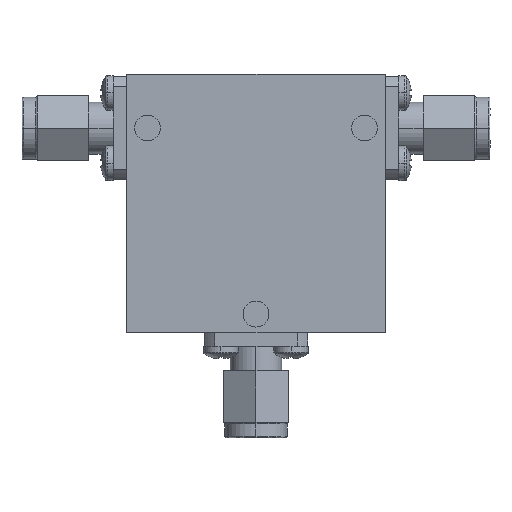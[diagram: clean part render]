
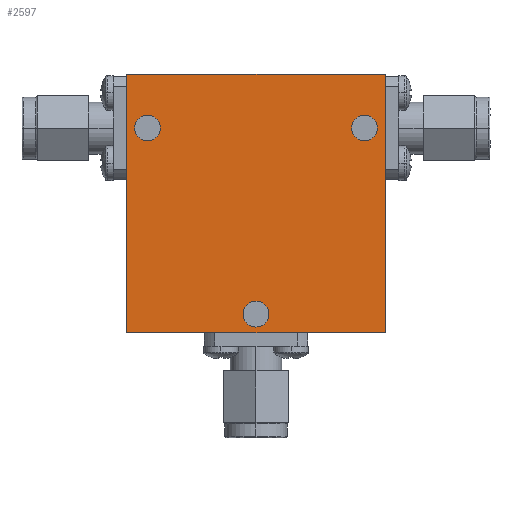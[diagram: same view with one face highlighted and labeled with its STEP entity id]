
A CAD part, top view. The second image highlights one B-rep face of the part: STEP entity #2597.
In plain terms, the highlighted planar face has unit normal (0, 0, 1) as drawn and (0, 0, -1) by its records, which use the part's own axes.
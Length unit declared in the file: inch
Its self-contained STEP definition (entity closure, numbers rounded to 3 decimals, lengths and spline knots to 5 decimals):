
#23 = DIRECTION ( 'NONE',  ( 1., 0., 0. ) ) ;
#35 = CARTESIAN_POINT ( 'NONE',  ( 0.625, 0.09, -0.25 ) ) ;
#51 = EDGE_CURVE ( 'NONE', #1299, #2743, #2066, .T. ) ;
#52 = CARTESIAN_POINT ( 'NONE',  ( 1.2125, 0.99, -0.25 ) ) ;
#70 = FACE_BOUND ( 'NONE', #912, .T. ) ;
#81 = VERTEX_POINT ( 'NONE', #3194 ) ;
#86 = VERTEX_POINT ( 'NONE', #1663 ) ;
#87 = CARTESIAN_POINT ( 'NONE',  ( 1.25, 1.25, -0.25 ) ) ;
#116 = CIRCLE ( 'NONE', #598, 0.0625 ) ;
#120 = CARTESIAN_POINT ( 'NONE',  ( 1.15, 0.99, -0.25 ) ) ;
#135 = VERTEX_POINT ( 'NONE', #1699 ) ;
#137 = CIRCLE ( 'NONE', #1637, 0.0625 ) ;
#186 = AXIS2_PLACEMENT_3D ( 'NONE', #1344, #3169, #1867 ) ;
#190 = CARTESIAN_POINT ( 'NONE',  ( 0., 1.25, -0.25 ) ) ;
#281 = CARTESIAN_POINT ( 'NONE',  ( 0.6875, 0.09, -0.25 ) ) ;
#327 = LINE ( 'NONE', #3146, #879 ) ;
#363 = PLANE ( 'NONE',  #186 ) ;
#386 = VERTEX_POINT ( 'NONE', #1484 ) ;
#398 = CIRCLE ( 'NONE', #1507, 0.0625 ) ;
#418 = CARTESIAN_POINT ( 'NONE',  ( 0.1, 0.99, -0.25 ) ) ;
#440 = CARTESIAN_POINT ( 'NONE',  ( 1.25, 1.25, -0.25 ) ) ;
#489 = VECTOR ( 'NONE', #1445, 39.37008 ) ;
#570 = CARTESIAN_POINT ( 'NONE',  ( 0.5625, 0.09, -0.25 ) ) ;
#585 = EDGE_LOOP ( 'NONE', ( #1379, #2255 ) ) ;
#597 = ORIENTED_EDGE ( 'NONE', *, *, #2006, .T. ) ;
#598 = AXIS2_PLACEMENT_3D ( 'NONE', #120, #2679, #2721 ) ;
#637 = DIRECTION ( 'NONE',  ( 0., 0., 1. ) ) ;
#799 = ORIENTED_EDGE ( 'NONE', *, *, #1827, .T. ) ;
#835 = ORIENTED_EDGE ( 'NONE', *, *, #2347, .F. ) ;
#879 = VECTOR ( 'NONE', #23, 39.37008 ) ;
#905 = AXIS2_PLACEMENT_3D ( 'NONE', #1815, #2874, #2100 ) ;
#912 = EDGE_LOOP ( 'NONE', ( #597, #1070 ) ) ;
#947 = DIRECTION ( 'NONE',  ( 0., 0., 1. ) ) ;
#959 = FACE_BOUND ( 'NONE', #585, .T. ) ;
#1033 = AXIS2_PLACEMENT_3D ( 'NONE', #2397, #637, #3163 ) ;
#1070 = ORIENTED_EDGE ( 'NONE', *, *, #2925, .T. ) ;
#1195 = CIRCLE ( 'NONE', #3051, 0.0625 ) ;
#1208 = DIRECTION ( 'NONE',  ( 1., 0., 0. ) ) ;
#1299 = VERTEX_POINT ( 'NONE', #52 ) ;
#1344 = CARTESIAN_POINT ( 'NONE',  ( 0., 0., -0.25 ) ) ;
#1379 = ORIENTED_EDGE ( 'NONE', *, *, #51, .T. ) ;
#1389 = VECTOR ( 'NONE', #1571, 39.37008 ) ;
#1399 = DIRECTION ( 'NONE',  ( 1., 0., 0. ) ) ;
#1435 = EDGE_CURVE ( 'NONE', #2743, #1299, #116, .T. ) ;
#1445 = DIRECTION ( 'NONE',  ( -1., 0., 0. ) ) ;
#1484 = CARTESIAN_POINT ( 'NONE',  ( 0.0375, 0.99, -0.25 ) ) ;
#1505 = ORIENTED_EDGE ( 'NONE', *, *, #3082, .T. ) ;
#1507 = AXIS2_PLACEMENT_3D ( 'NONE', #418, #947, #1208 ) ;
#1543 = DIRECTION ( 'NONE',  ( 0., 0., 1. ) ) ;
#1556 = DIRECTION ( 'NONE',  ( 1., 0., 0. ) ) ;
#1571 = DIRECTION ( 'NONE',  ( 0., -1., 0. ) ) ;
#1610 = DIRECTION ( 'NONE',  ( 0., 0., 1. ) ) ;
#1637 = AXIS2_PLACEMENT_3D ( 'NONE', #3147, #1610, #1399 ) ;
#1663 = CARTESIAN_POINT ( 'NONE',  ( 1.25, 0., -0.25 ) ) ;
#1666 = VECTOR ( 'NONE', #2143, 39.37008 ) ;
#1699 = CARTESIAN_POINT ( 'NONE',  ( 0., 0., -0.25 ) ) ;
#1815 = CARTESIAN_POINT ( 'NONE',  ( 0.625, 0.09, -0.25 ) ) ;
#1827 = EDGE_CURVE ( 'NONE', #3133, #2603, #2372, .T. ) ;
#1867 = DIRECTION ( 'NONE',  ( 1., 0., 0. ) ) ;
#1953 = LINE ( 'NONE', #190, #489 ) ;
#1972 = VERTEX_POINT ( 'NONE', #440 ) ;
#2006 = EDGE_CURVE ( 'NONE', #2616, #386, #137, .T. ) ;
#2066 = CIRCLE ( 'NONE', #1033, 0.0625 ) ;
#2100 = DIRECTION ( 'NONE',  ( 1., 0., 0. ) ) ;
#2111 = CARTESIAN_POINT ( 'NONE',  ( 0., 1.25, -0.25 ) ) ;
#2137 = ORIENTED_EDGE ( 'NONE', *, *, #3296, .F. ) ;
#2143 = DIRECTION ( 'NONE',  ( 0., 1., 0. ) ) ;
#2146 = FACE_BOUND ( 'NONE', #2378, .T. ) ;
#2155 = CARTESIAN_POINT ( 'NONE',  ( 1.0875, 0.99, -0.25 ) ) ;
#2236 = FACE_OUTER_BOUND ( 'NONE', #3183, .T. ) ;
#2255 = ORIENTED_EDGE ( 'NONE', *, *, #1435, .T. ) ;
#2289 = EDGE_CURVE ( 'NONE', #135, #86, #327, .T. ) ;
#2347 = EDGE_CURVE ( 'NONE', #81, #135, #3079, .T. ) ;
#2372 = CIRCLE ( 'NONE', #905, 0.0625 ) ;
#2378 = EDGE_LOOP ( 'NONE', ( #799, #1505 ) ) ;
#2397 = CARTESIAN_POINT ( 'NONE',  ( 1.15, 0.99, -0.25 ) ) ;
#2597 = ADVANCED_FACE ( 'NONE', ( #959, #2146, #70, #2236 ), #363, .F. ) ;
#2603 = VERTEX_POINT ( 'NONE', #570 ) ;
#2616 = VERTEX_POINT ( 'NONE', #2640 ) ;
#2640 = CARTESIAN_POINT ( 'NONE',  ( 0.1625, 0.99, -0.25 ) ) ;
#2679 = DIRECTION ( 'NONE',  ( 0., 0., 1. ) ) ;
#2721 = DIRECTION ( 'NONE',  ( 1., 0., 0. ) ) ;
#2743 = VERTEX_POINT ( 'NONE', #2155 ) ;
#2864 = EDGE_CURVE ( 'NONE', #1972, #81, #1953, .T. ) ;
#2866 = LINE ( 'NONE', #87, #1666 ) ;
#2874 = DIRECTION ( 'NONE',  ( 0., 0., 1. ) ) ;
#2925 = EDGE_CURVE ( 'NONE', #386, #2616, #398, .T. ) ;
#3051 = AXIS2_PLACEMENT_3D ( 'NONE', #35, #1543, #1556 ) ;
#3079 = LINE ( 'NONE', #2111, #1389 ) ;
#3082 = EDGE_CURVE ( 'NONE', #2603, #3133, #1195, .T. ) ;
#3098 = ORIENTED_EDGE ( 'NONE', *, *, #2864, .F. ) ;
#3133 = VERTEX_POINT ( 'NONE', #281 ) ;
#3146 = CARTESIAN_POINT ( 'NONE',  ( 0., 0., -0.25 ) ) ;
#3147 = CARTESIAN_POINT ( 'NONE',  ( 0.1, 0.99, -0.25 ) ) ;
#3163 = DIRECTION ( 'NONE',  ( 1., 0., 0. ) ) ;
#3169 = DIRECTION ( 'NONE',  ( 0., 0., 1. ) ) ;
#3183 = EDGE_LOOP ( 'NONE', ( #2137, #3213, #835, #3098 ) ) ;
#3194 = CARTESIAN_POINT ( 'NONE',  ( 0., 1.25, -0.25 ) ) ;
#3213 = ORIENTED_EDGE ( 'NONE', *, *, #2289, .F. ) ;
#3296 = EDGE_CURVE ( 'NONE', #86, #1972, #2866, .T. ) ;
